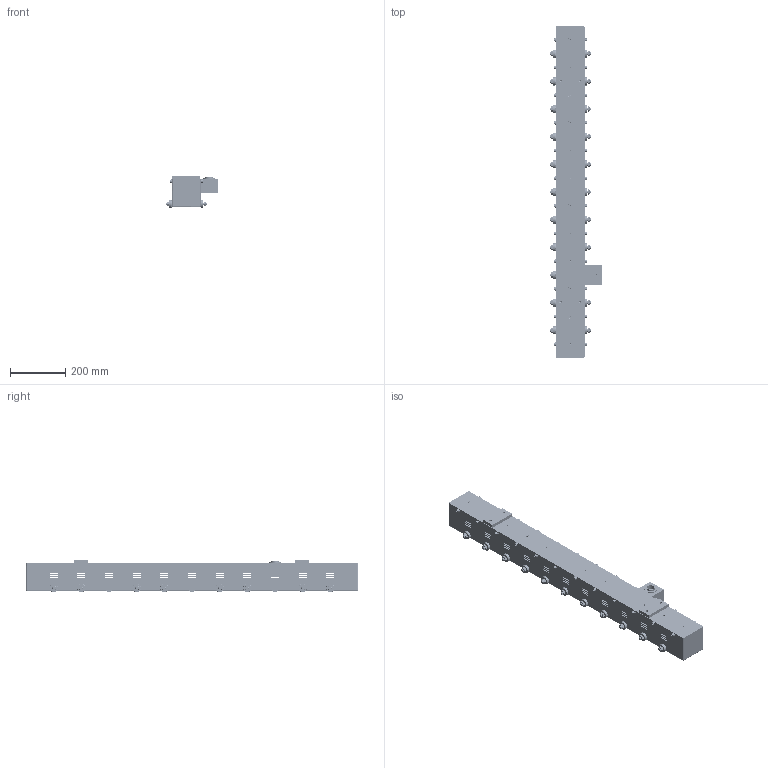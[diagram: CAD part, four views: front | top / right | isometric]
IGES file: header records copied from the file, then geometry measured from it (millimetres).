
Global section: file name: SER-RO-104Wx102Hx1200L-H v5; native system: unknown; preprocessor: unknown; author: unknown; organization: unknown; date: 20221216.155003; units: millimetre
Bounding box: 191.55 x 1200 x 117 mm (x, y, z)
Volume: 3230600.5 mm3; surface area: 1322343.8 mm2
Topology: 512 solids, 512 shells, 3782 faces, 9732 edges, 6592 vertices
Faces by surface type: bspline 3782
